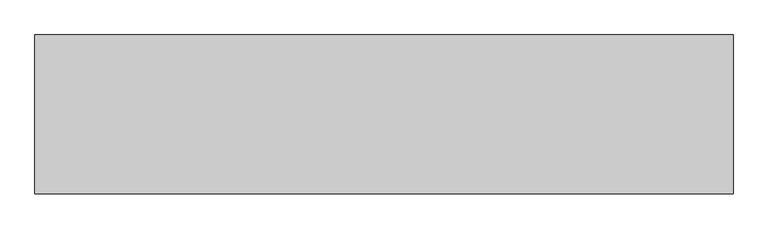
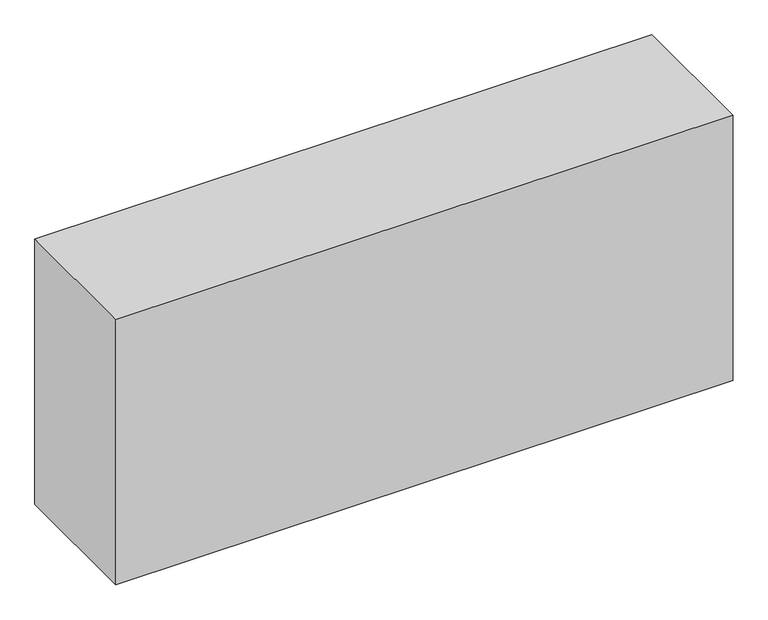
"""IFC4 building model written with IfcOpenShell, lengths in millimetres: beam geometry, Бетон-Балка прямоугольного сечения : 300 x 600 мм."""

from ifc_helpers import new_model, si_unit, frame, origin, place, context, project, spatial, polyline, outline, extrude, source, transform, mapped, element, save


def beam_b8a4c279(model_context):
    return source(origin(), model_context, "Body", "SweptSolid", [
        extrude(outline(polyline([(660.0, 150.0), (660.0, -150.0), (-660.0, -150.0), (-660.0, 150.0), (660.0, 150.0)])), frame((0.0, 0.0, -300.0), z_axis=(0.0, 0.0, 1.0), x_axis=(1.0, 0.0, 0.0)), (0.0, 0.0, 1.0), 600.0),
    ])


if __name__ == "__main__":
    model = new_model("IFC4")
    model_context = context("Model", 3, world=origin())
    ifc_project = project(units=[si_unit("LENGTHUNIT", "METRE", prefix="MILLI")], contexts=[model_context])
    site = spatial("IfcSite", under=ifc_project)
    building = spatial("IfcBuilding", under=site)
    placement = place(None, origin())
    beam_shape = beam_b8a4c279(model_context)
    element("IfcBeam", 1, ObjectType="Бетон-Балка прямоугольного сечения : 300 x 600 мм", at=placement, inside=building, context=model_context, shape_type="MappedRepresentation", body=[
        mapped(beam_shape, transform((0.0, 0.0, 0.0), x_axis=(1.0, 0.0, 0.0), y_axis=(0.0, 1.0, 0.0), z_axis=(0.0, 0.0, 1.0))),
    ])
    save(model, "model.ifc")
